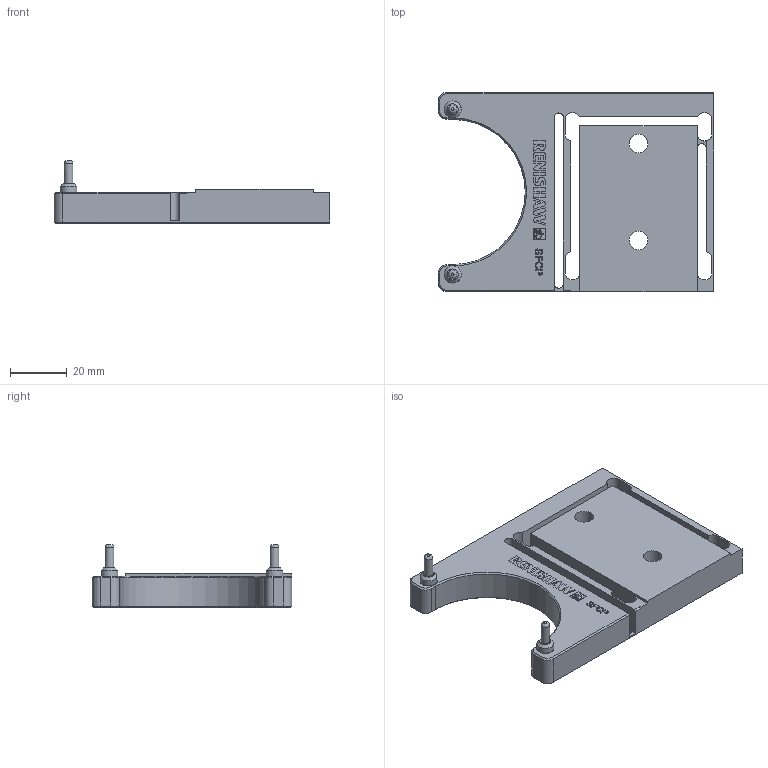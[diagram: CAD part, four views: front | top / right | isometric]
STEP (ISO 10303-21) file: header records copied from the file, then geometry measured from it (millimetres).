
FILE_DESCRIPTION(/* description */ (''),/* implementation_level */ '2;1');
FILE_NAME(/* name */ 'LA-5453-0015#-A.stp',/* time_stamp */ '2012-09-07T08:16:19+01:00',/* author */ (''),/* organization */ (''),/* preprocessor_version */ 'ST-DEVELOPER v11',/* originating_system */ 'SIEMENS PLM Software NX 7.5',/* authorisation */ '');
FILE_SCHEMA (('AUTOMOTIVE_DESIGN { 1 0 10303 214 1 1 1 1 }'));
Length unit declared in the file: millimetre
Products named in the file (1): rt13371Ayura
Bounding box: 96.7 x 70 x 22.1 mm (x, y, z)
Volume: 53669 mm3; surface area: 19091.7 mm2
Topology: 1 solids, 1 shells, 109 faces, 445 edges, 365 vertices
Faces by surface type: plane 71, cylinder 23, cone 13, bspline 2
Full cylindrical faces by diameter (mm): 3.04 x2, 5.9 x2, 6.5 x2
Entity records: 5289 total; most frequent: CARTESIAN_POINT 1607, ORIENTED_EDGE 864, DIRECTION 510, EDGE_CURVE 432, VERTEX_POINT 363, B_SPLINE_CURVE_WITH_KNOTS 201, AXIS2_PLACEMENT_3D 171, LINE 168
